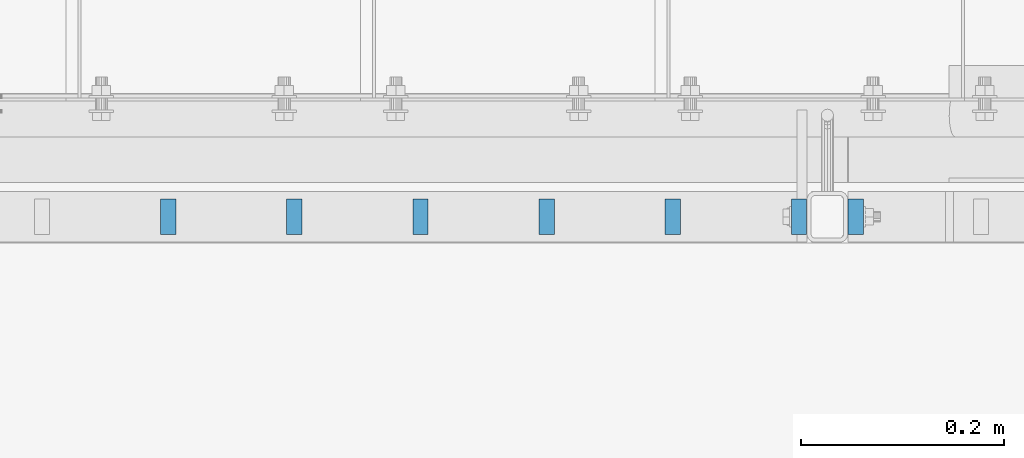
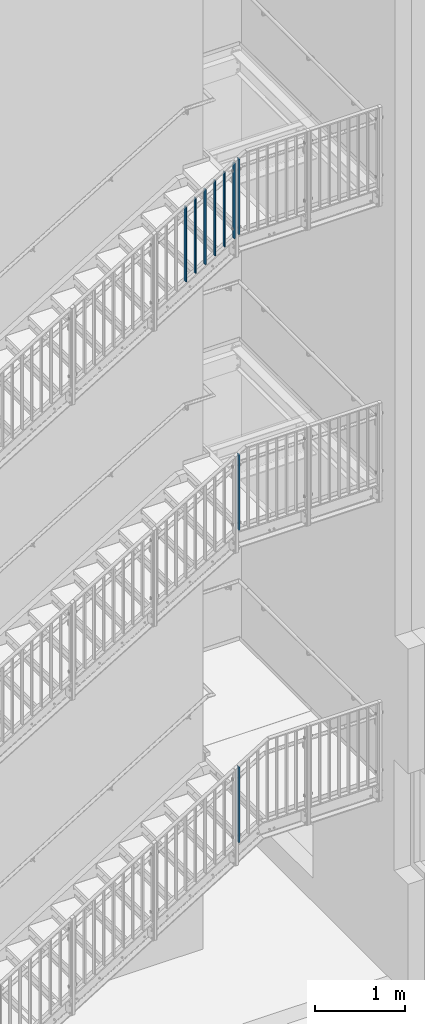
# One storey, part 19 of 410: 9 columns, 8 openings.
"""IFC2X3 building model written with IfcOpenShell, lengths in millimetres."""

from ifc_helpers import new_model, entity, si_unit, converted_unit, frame, frame_2d, origin, origin_with_axes, origin_2d, place, context, project, spatial, rectangle, circle, extrude, material, element, save


model = new_model("IFC2X3")

# Units and contexts
model_context = context("Model", 3, precision=1e-09, world=origin_with_axes())
ifc_project = project(units=[si_unit("LENGTHUNIT", "METRE", prefix="MILLI"), si_unit("AREAUNIT", "SQUARE_METRE"), si_unit("VOLUMEUNIT", "CUBIC_METRE"), converted_unit("PLANEANGLEUNIT", "DEGREE", entity("IfcPlaneAngleMeasure", 0.01745329), si_unit("PLANEANGLEUNIT", "RADIAN"), dimensions=[0, 0, 0, 0, 0, 0, 0])], contexts=[model_context])

# Site, building, storey
site_placement = place(None, origin_with_axes())
site = spatial("IfcSite", under=ifc_project, at=site_placement, Name="mKR Teilneubau & Sanierung BA1 - Ostfildern", CompositionType="ELEMENT")
building_placement = place(site_placement, origin_with_axes())
building = spatial("IfcBuilding", under=site, at=building_placement, Name="Struktur 1", CompositionType="ELEMENT")
storey_placement = place(building_placement, origin_with_axes())
storey = spatial("IfcBuildingStorey", under=building, at=storey_placement, Name="Default Storey", CompositionType="ELEMENT", Elevation=0.0)

# Column, openings
ifc_material = material(Name="S235JR")
column_1_placement = place(None, frame((1337.001468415, 15405.999999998, 6913.645155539), z_axis=(0.0, 0.0, 1.0), x_axis=(-1.0, 0.0, 0.0)))
column_1 = element("IfcColumn", 1, at=column_1_placement, inside=storey, material=ifc_material, Name="-", ObjectType="-", context=model_context, shape_type="SweptSolid", body=[
    extrude(rectangle(XDim=15.0, YDim=35.0, at=origin_2d()), origin(), (0.0, 0.0, -1.0), 1025.546889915),
])
opening_1_placement = place(column_1_placement, frame((-8.0, -6.001, -899.830106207), z_axis=(-1.0, 0.0, 0.0), x_axis=(0.0, -1.0, 0.0)))
element("IfcOpeningElement", 2, at=opening_1_placement, cuts=column_1, ObjectType="Opening", context=model_context, shape_type="SweptSolid", body=[
    extrude(circle(Radius=6.001, at=frame_2d((-6.001, 0.0), x_axis=(1.0, 0.0))), origin(), (0.0, 0.0, -1.0), 16.0),
])
opening_2_placement = place(column_1_placement, frame((-8.0, -6.001, -114.830106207), z_axis=(-1.0, 0.0, 0.0), x_axis=(0.0, -1.0, 0.0)))
element("IfcOpeningElement", 3, at=opening_2_placement, cuts=column_1, ObjectType="Opening", context=model_context, shape_type="SweptSolid", body=[
    extrude(circle(Radius=6.001, at=frame_2d((-6.001, 0.0), x_axis=(1.0, 0.0))), origin(), (0.0, 0.0, -1.0), 16.0),
])

# Columns
for number, where, z_axis, x_axis in (
    (4, (715.751468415, 15405.999999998, 6538.752914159), (0.0, 0.0, 1.0), (-1.0, 0.0, 0.0)),
    (5, (840.001468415, 15405.999999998, 6613.731362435), (0.0, 0.0, 1.0), (-1.0, 0.0, 0.0)),
    (6, (964.251468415, 15405.999999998, 6688.709810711), (0.0, 0.0, 1.0), (-1.0, 0.0, 0.0)),
    (7, (1088.501468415, 15405.999999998, 6763.688258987), (0.0, 0.0, 1.0), (-1.0, 0.0, 0.0)),
    (8, (1212.751468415, 15405.999999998, 6838.666707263), (0.0, 0.0, 1.0), (-1.0, 0.0, 0.0)),
):
    element("IfcColumn", number, at=place(None, frame(where, z_axis=z_axis, x_axis=x_axis)), inside=storey, material=ifc_material, Name="-", ObjectType="-", context=model_context, shape_type="SweptSolid", body=[
        extrude(rectangle(XDim=15.0, YDim=35.0, at=origin_2d()), origin(), (0.0, 0.0, -1.0), 1020.870181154),
    ])

# Column, openings
column_2_placement = place(None, frame((1393.001468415, 15405.999999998, 6952.114967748), z_axis=(0.0, 0.0, 1.0), x_axis=(-1.0, 0.0, 0.0)))
column_2 = element("IfcColumn", 9, at=column_2_placement, inside=storey, material=ifc_material, Name="-", ObjectType="-", context=model_context, shape_type="SweptSolid", body=[
    extrude(rectangle(XDim=15.0, YDim=35.0, at=origin_2d()), origin(), (0.0, 0.0, -1.0), 1027.114967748),
])
opening_3_placement = place(column_2_placement, frame((-8.0, -6.001, -938.299918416), z_axis=(-1.0, 0.0, 0.0), x_axis=(0.0, -1.0, 0.0)))
element("IfcOpeningElement", 10, at=opening_3_placement, cuts=column_2, ObjectType="Opening", context=model_context, shape_type="SweptSolid", body=[
    extrude(circle(Radius=6.001, at=frame_2d((-6.001, 0.0), x_axis=(1.0, 0.0))), origin(), (0.0, 0.0, -1.0), 16.0),
])
opening_4_placement = place(column_2_placement, frame((-8.0, -6.001, -153.299918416), z_axis=(-1.0, 0.0, 0.0), x_axis=(0.0, -1.0, 0.0)))
element("IfcOpeningElement", 11, at=opening_4_placement, cuts=column_2, ObjectType="Opening", context=model_context, shape_type="SweptSolid", body=[
    extrude(circle(Radius=6.001, at=frame_2d((-6.001, 0.0), x_axis=(1.0, 0.0))), origin(), (0.0, 0.0, -1.0), 16.0),
])

column_3_placement = place(None, frame((1393.001468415, 15405.999999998, 2940.510098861), z_axis=(0.0, 0.0, 1.0), x_axis=(-1.0, 0.0, 0.0)))
column_3 = element("IfcColumn", 12, at=column_3_placement, inside=storey, material=ifc_material, Name="-", ObjectType="-", context=model_context, shape_type="SweptSolid", body=[
    extrude(rectangle(XDim=15.0, YDim=35.0, at=origin_2d()), origin(), (0.0, 0.0, -1.0), 1027.466620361),
])
opening_5_placement = place(column_3_placement, frame((-8.0, -6.001, -938.267101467), z_axis=(-1.0, 0.0, 0.0), x_axis=(0.0, -1.0, 0.0)))
element("IfcOpeningElement", 13, at=opening_5_placement, cuts=column_3, ObjectType="Opening", context=model_context, shape_type="SweptSolid", body=[
    extrude(circle(Radius=6.001, at=frame_2d((-6.001, 0.0), x_axis=(1.0, 0.0))), origin(), (0.0, 0.0, -1.0), 16.0),
])
opening_6_placement = place(column_3_placement, frame((-8.0, -6.001, -153.267101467), z_axis=(-1.0, 0.0, 0.0), x_axis=(0.0, -1.0, 0.0)))
element("IfcOpeningElement", 14, at=opening_6_placement, cuts=column_3, ObjectType="Opening", context=model_context, shape_type="SweptSolid", body=[
    extrude(circle(Radius=6.001, at=frame_2d((-6.001, 0.0), x_axis=(1.0, 0.0))), origin(), (0.0, 0.0, -1.0), 16.0),
])

column_4_placement = place(None, frame((1393.001468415, 15405.999999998, -1298.514209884), z_axis=(0.0, 0.0, 1.0), x_axis=(-1.0, 0.0, 0.0)))
column_4 = element("IfcColumn", 15, at=column_4_placement, inside=storey, material=ifc_material, Name="-", ObjectType="-", context=model_context, shape_type="SweptSolid", body=[
    extrude(rectangle(XDim=15.0, YDim=35.0, at=origin_2d()), origin(), (0.0, 0.0, -1.0), 1025.117869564),
])
opening_7_placement = place(column_4_placement, frame((-8.0, -6.001, -938.415191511), z_axis=(-1.0, 0.0, 0.0), x_axis=(0.0, -1.0, 0.0)))
element("IfcOpeningElement", 16, at=opening_7_placement, cuts=column_4, ObjectType="Opening", context=model_context, shape_type="SweptSolid", body=[
    extrude(circle(Radius=6.001, at=frame_2d((-6.001, 0.0), x_axis=(1.0, 0.0))), origin(), (0.0, 0.0, -1.0), 16.0),
])
opening_8_placement = place(column_4_placement, frame((-8.0, -6.001, -153.415191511), z_axis=(-1.0, 0.0, 0.0), x_axis=(0.0, -1.0, 0.0)))
element("IfcOpeningElement", 17, at=opening_8_placement, cuts=column_4, ObjectType="Opening", context=model_context, shape_type="SweptSolid", body=[
    extrude(circle(Radius=6.001, at=frame_2d((-6.001, 0.0), x_axis=(1.0, 0.0))), origin(), (0.0, 0.0, -1.0), 16.0),
])

save(model, "model.ifc")
